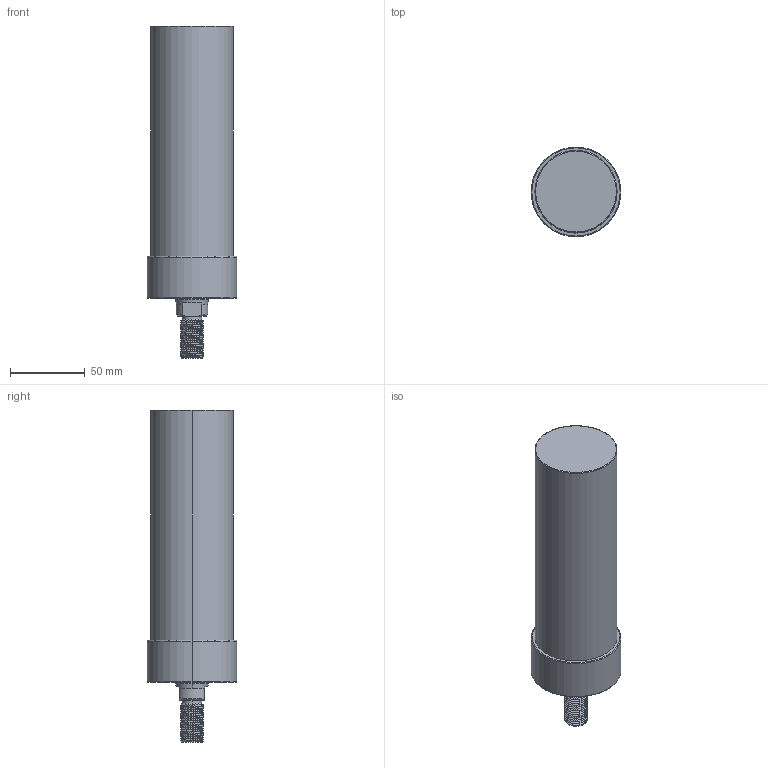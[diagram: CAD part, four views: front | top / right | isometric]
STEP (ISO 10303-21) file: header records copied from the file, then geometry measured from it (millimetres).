
FILE_DESCRIPTION (( 'STEP AP203' ), '1' );
FILE_NAME ('CLLU-055GT-125.STEP', '2020-01-16T01:57:28', ( '' ), ( '' ), 'SwSTEP 2.0', 'SolidWorks 2015', '' );
FILE_SCHEMA (( 'CONFIG_CONTROL_DESIGN' ));
Length unit declared in the file: millimetre
Products named in the file (1): CLLU-055GT-125
Bounding box: 60 x 60 x 222 mm (x, y, z)
Volume: 452326.6 mm3; surface area: 41582.8 mm2
Topology: 1 solids, 1 shells, 102 faces, 254 edges, 155 vertices
Faces by surface type: cylinder 56, cone 26, plane 12, torus 6, bspline 2
Entity records: 4894 total; most frequent: CARTESIAN_POINT 2603, ORIENTED_EDGE 492, DIRECTION 445, EDGE_CURVE 246, AXIS2_PLACEMENT_3D 178, VERTEX_POINT 155, EDGE_LOOP 111, FACE_OUTER_BOUND 102
